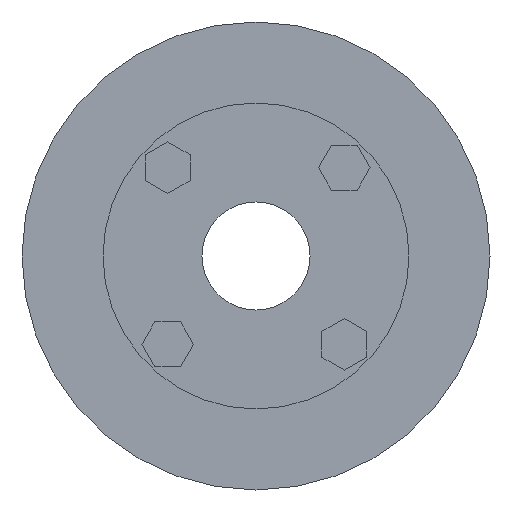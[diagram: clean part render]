
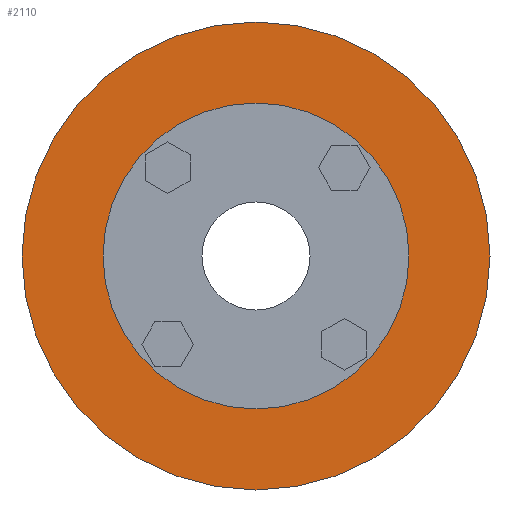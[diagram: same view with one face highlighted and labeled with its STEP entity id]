
A CAD part, left-side view. The second image highlights one B-rep face of the part: STEP entity #2110.
In plain terms, the highlighted planar face has unit normal (-1, 0, 0).
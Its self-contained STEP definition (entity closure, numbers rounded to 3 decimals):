
#10 = DIRECTION ( 'NONE',  ( 0., 0., 1. ) ) ;
#11 = DIRECTION ( 'NONE',  ( -1., 0., 0. ) ) ;
#12 = AXIS2_PLACEMENT_3D ( 'NONE', #18, #11, #10 ) ;
#13 = CIRCLE ( 'NONE', #12, 52. ) ;
#18 = CARTESIAN_POINT ( 'NONE',  ( 18.1, 0., 0. ) ) ;
#253 = DIRECTION ( 'NONE',  ( 0., 0., 1. ) ) ;
#254 = DIRECTION ( 'NONE',  ( -1., 0., 0. ) ) ;
#255 = CARTESIAN_POINT ( 'NONE',  ( 18.1, 0., 0. ) ) ;
#256 = AXIS2_PLACEMENT_3D ( 'NONE', #255, #254, #253 ) ;
#257 = CIRCLE ( 'NONE', #256, 24.45 ) ;
#259 = DIRECTION ( 'NONE',  ( 0., 0., -1. ) ) ;
#260 = DIRECTION ( 'NONE',  ( 1., 0., 0. ) ) ;
#261 = CARTESIAN_POINT ( 'NONE',  ( 18.1, 24.45, 0. ) ) ;
#262 = AXIS2_PLACEMENT_3D ( 'NONE', #261, #260, #259 ) ;
#263 = PLANE ( 'NONE',  #262 ) ;
#398 = FACE_OUTER_BOUND ( 'NONE', #2052, .T. ) ;
#399 = FACE_BOUND ( 'NONE', #2054, .T. ) ;
#745 = CARTESIAN_POINT ( 'NONE',  ( 18.1, 0., 24.45 ) ) ;
#746 = DIRECTION ( 'NONE',  ( 0., 0., 1. ) ) ;
#747 = DIRECTION ( 'NONE',  ( -1., 0., 0. ) ) ;
#748 = CARTESIAN_POINT ( 'NONE',  ( 18.1, 0., 0. ) ) ;
#749 = AXIS2_PLACEMENT_3D ( 'NONE', #748, #747, #746 ) ;
#750 = CIRCLE ( 'NONE', #749, 24.45 ) ;
#846 = CARTESIAN_POINT ( 'NONE',  ( 18.1, 0., -24.45 ) ) ;
#970 = CARTESIAN_POINT ( 'NONE',  ( 18.1, 0., -52. ) ) ;
#1027 = DIRECTION ( 'NONE',  ( 0., 0., 1. ) ) ;
#1028 = DIRECTION ( 'NONE',  ( -1., 0., 0. ) ) ;
#1029 = CARTESIAN_POINT ( 'NONE',  ( 18.1, 0., 0. ) ) ;
#1030 = AXIS2_PLACEMENT_3D ( 'NONE', #1029, #1028, #1027 ) ;
#1031 = CIRCLE ( 'NONE', #1030, 52. ) ;
#1032 = CARTESIAN_POINT ( 'NONE',  ( 18.1, 0., 52. ) ) ;
#1887 = ORIENTED_EDGE ( 'NONE', *, *, #1995, .T. ) ;
#1995 = EDGE_CURVE ( 'NONE', #2498, #2416, #13, .T. ) ;
#2051 = ORIENTED_EDGE ( 'NONE', *, *, #2317, .F. ) ;
#2052 = EDGE_LOOP ( 'NONE', ( #2053, #1887 ) ) ;
#2053 = ORIENTED_EDGE ( 'NONE', *, *, #2418, .T. ) ;
#2054 = EDGE_LOOP ( 'NONE', ( #2111, #2051 ) ) ;
#2110 = ADVANCED_FACE ( 'NONE', ( #399, #398 ), #263, .F. ) ;
#2111 = ORIENTED_EDGE ( 'NONE', *, *, #2112, .F. ) ;
#2112 = EDGE_CURVE ( 'NONE', #2447, #2318, #257, .T. ) ;
#2317 = EDGE_CURVE ( 'NONE', #2318, #2447, #750, .T. ) ;
#2318 = VERTEX_POINT ( 'NONE', #745 ) ;
#2416 = VERTEX_POINT ( 'NONE', #1032 ) ;
#2418 = EDGE_CURVE ( 'NONE', #2416, #2498, #1031, .T. ) ;
#2447 = VERTEX_POINT ( 'NONE', #846 ) ;
#2498 = VERTEX_POINT ( 'NONE', #970 ) ;
